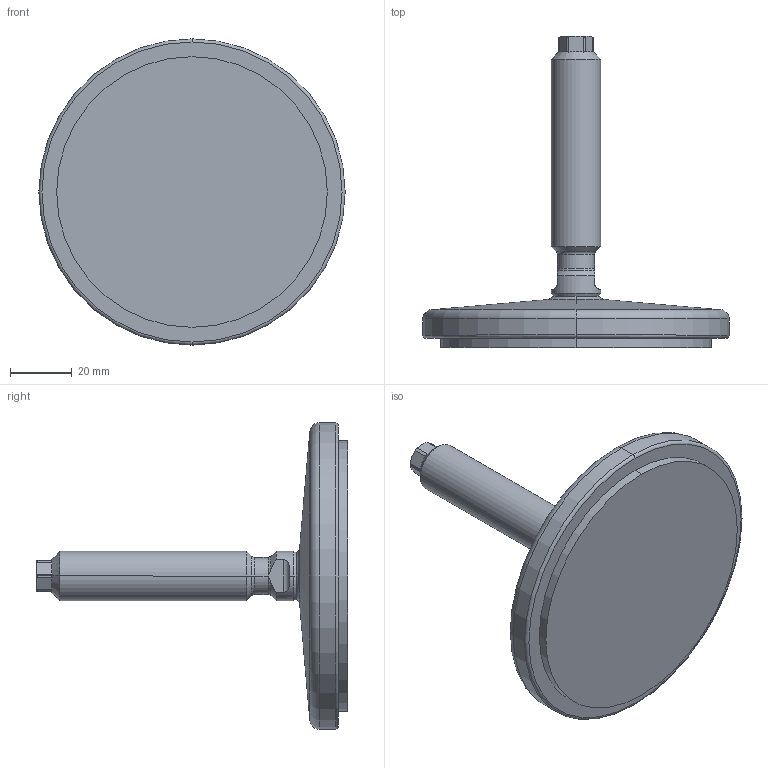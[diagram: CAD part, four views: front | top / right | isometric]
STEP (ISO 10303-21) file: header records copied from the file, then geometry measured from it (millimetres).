
FILE_DESCRIPTION (( 'STEP AP214' ), '1' );
FILE_NAME ('21-100-M16-75-D1-V.step', '2020-10-02T17:37:06', ( '' ), ( '' ), 'SwSTEP 2.0', 'SolidWorks 2019', '' );
FILE_SCHEMA (( 'AUTOMOTIVE_DESIGN' ));
Length unit declared in the file: millimetre
Products named in the file (3): 21-100-M16-75-D1-V; WB21_Fußteller 21^WB21_V_D1-100-R10-B7 (M8 M10_M12_M16); WB21_Spindel_V^WB21_V_M16-75
Assembly tree (2 placements, depth 2):
  21-100-M16-75-D1-V
    WB21_Fußteller 21^WB21_V_D1-100-R10-B7 (M8 M10_M12_M16)
    WB21_Spindel_V^WB21_V_M16-75
Bounding box: 99 x 100.64 x 99 mm (x, y, z)
Volume: 113358.5 mm3; surface area: 23356.3 mm2
Topology: 2 solids, 2 shells, 76 faces, 171 edges, 101 vertices
Faces by surface type: cylinder 25, plane 20, cone 17, torus 10, sphere 4
Entity records: 2391 total; most frequent: CARTESIAN_POINT 509, DIRECTION 390, ORIENTED_EDGE 342, EDGE_CURVE 171, AXIS2_PLACEMENT_3D 166, VERTEX_POINT 101, CIRCLE 85, EDGE_LOOP 78
